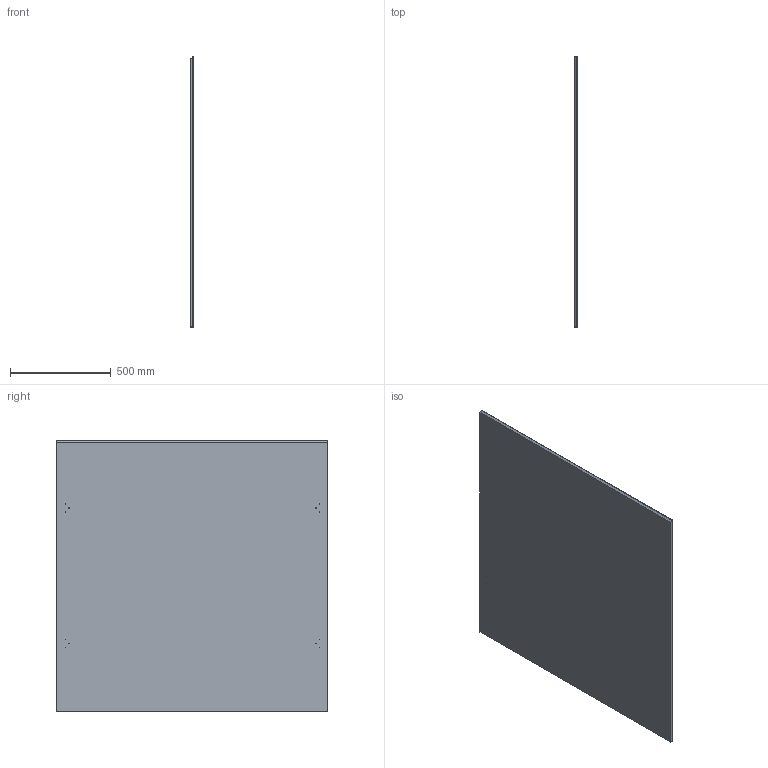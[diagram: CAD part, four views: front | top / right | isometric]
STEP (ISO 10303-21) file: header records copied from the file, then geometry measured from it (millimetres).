
FILE_DESCRIPTION (( 'STEP AP214' ), '1' );
FILE_NAME ('8005111.STEP', '2025-09-22T12:55:06', ( '' ), ( '' ), 'SwSTEP 2.0', 'SolidWorks 2025', '' );
FILE_SCHEMA (( 'AUTOMOTIVE_DESIGN' ));
Length unit declared in the file: millimetre
Products named in the file (2): 8005111; 8005111_Platte_für_Trennwand_geteilt_8005111_Platte_für_Trennwand_geteilt
Assembly tree (1 placements, depth 2):
  8005111
    8005111_Platte_für_Trennwand_geteilt_8005111_Platte_für_Trennwand_geteilt
Bounding box: 12 x 1338 x 1341.17 mm (x, y, z)
Volume: 21472592.6 mm3; surface area: 3641686.2 mm2
Topology: 1 solids, 1 shells, 55 faces, 115 edges, 70 vertices
Faces by surface type: cylinder 33, plane 18, sphere 4
Entity records: 1519 total; most frequent: DIRECTION 291, CARTESIAN_POINT 246, ORIENTED_EDGE 222, AXIS2_PLACEMENT_3D 123, EDGE_CURVE 111, VERTEX_POINT 70, EDGE_LOOP 67, CIRCLE 64
